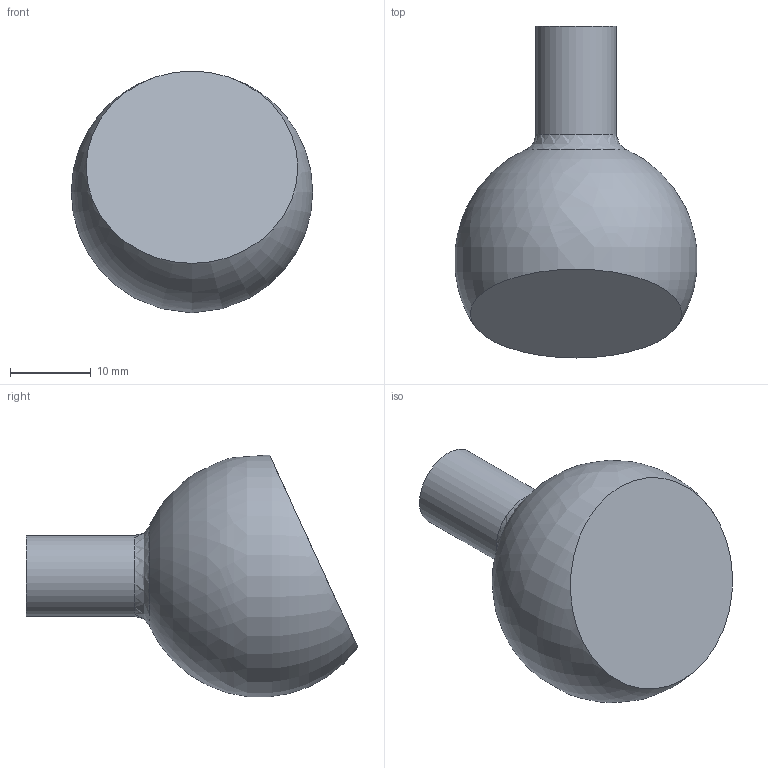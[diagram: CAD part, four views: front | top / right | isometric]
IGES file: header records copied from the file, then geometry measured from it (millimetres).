
Start section: Data from Parasolid IGES Translator 15.0.47, Copyright(c) 2006 Siemens P LM Software. All Rights Reserved.
Global section: file name: 9105751.igs; native system:  By UGS Corp.; preprocessor: XPlus GENERIC/IGES 3.0; author: Noname; organization: Noname; date: 20140122.135859; units: millimetre
Bounding box: 29.84 x 41.03 x 29.91 mm (x, y, z)
Surface area: 3195.6 mm2 (no closed solid volume)
Topology: 0 solids, 0 shells, 7 faces, 22 edges, 19 vertices
Faces by surface type: revolution 4, extrusion 3
